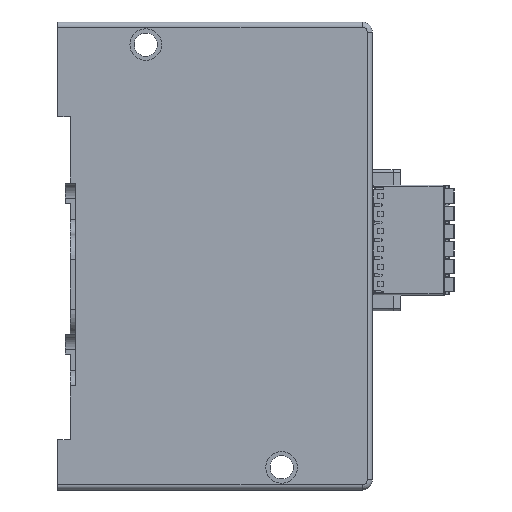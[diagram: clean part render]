
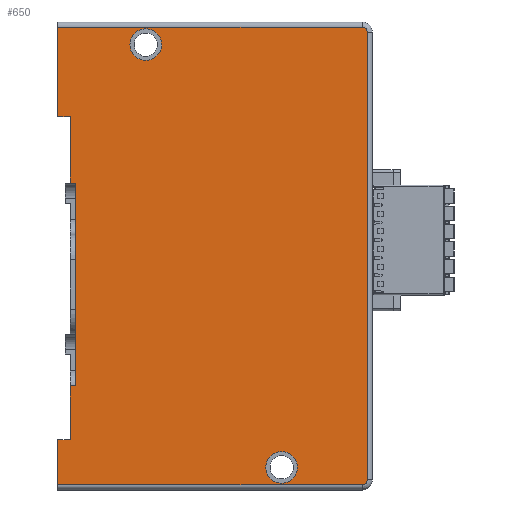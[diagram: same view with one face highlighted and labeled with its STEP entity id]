
A CAD part, left-side view. The second image highlights one B-rep face of the part: STEP entity #650.
In plain terms, the highlighted planar face has unit normal (-1, 0, 0).
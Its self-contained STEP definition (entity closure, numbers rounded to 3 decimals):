
#650=ADVANCED_FACE('',(#7004,#7005,#7006),#7003,.T.);
#7003=PLANE('',#13170);
#7004=FACE_OUTER_BOUND('',#13171,.T.);
#7005=FACE_BOUND('',#13172,.T.);
#7006=FACE_BOUND('',#13173,.T.);
#13167=CARTESIAN_POINT('',(0.,-73.25,-38.9));
#13168=DIRECTION('',(-1.,0.,0.));
#13169=DIRECTION('',(0.,0.,1.));
#13170=AXIS2_PLACEMENT_3D('',#13167,#13168,#13169);
#13171=EDGE_LOOP('',(#17980,#17981,#17982,#17983,#17984,#17985,#17986,#17987,#17988,#17989,#17990,#17991,#17992,#17993));
#13172=EDGE_LOOP('',(#17994,#17995));
#13173=EDGE_LOOP('',(#17996,#17997));
#17980=ORIENTED_EDGE('',*,*,#21207,.F.);
#17981=ORIENTED_EDGE('',*,*,#21129,.F.);
#17982=ORIENTED_EDGE('',*,*,#21131,.F.);
#17983=ORIENTED_EDGE('',*,*,#21084,.T.);
#17984=ORIENTED_EDGE('',*,*,#21221,.F.);
#17985=ORIENTED_EDGE('',*,*,#21222,.F.);
#17986=ORIENTED_EDGE('',*,*,#21226,.F.);
#17987=ORIENTED_EDGE('',*,*,#21232,.T.);
#17988=ORIENTED_EDGE('',*,*,#21233,.T.);
#17989=ORIENTED_EDGE('',*,*,#21234,.T.);
#17990=ORIENTED_EDGE('',*,*,#21235,.T.);
#17991=ORIENTED_EDGE('',*,*,#21236,.T.);
#17992=ORIENTED_EDGE('',*,*,#21201,.F.);
#17993=ORIENTED_EDGE('',*,*,#21205,.F.);
#17994=ORIENTED_EDGE('',*,*,#21237,.F.);
#17995=ORIENTED_EDGE('',*,*,#21238,.F.);
#17996=ORIENTED_EDGE('',*,*,#21239,.F.);
#17997=ORIENTED_EDGE('',*,*,#21240,.F.);
#21084=EDGE_CURVE('',#32451,#32452,#32453,.T.);
#21129=EDGE_CURVE('',#32748,#32755,#32756,.T.);
#21131=EDGE_CURVE('',#32451,#32748,#32768,.T.);
#21201=EDGE_CURVE('',#33238,#33239,#33240,.T.);
#21205=EDGE_CURVE('',#33264,#33238,#33265,.T.);
#21207=EDGE_CURVE('',#32755,#33264,#33277,.T.);
#21221=EDGE_CURVE('',#33359,#32452,#33366,.T.);
#21222=EDGE_CURVE('',#33372,#33359,#33373,.T.);
#21226=EDGE_CURVE('',#33393,#33372,#33400,.T.);
#21232=EDGE_CURVE('',#33393,#33436,#33437,.T.);
#21233=EDGE_CURVE('',#33436,#33443,#33444,.T.);
#21234=EDGE_CURVE('',#33443,#33450,#33451,.T.);
#21235=EDGE_CURVE('',#33450,#33457,#33458,.T.);
#21236=EDGE_CURVE('',#33457,#33239,#33464,.T.);
#21237=EDGE_CURVE('',#33470,#33471,#33472,.T.);
#21238=EDGE_CURVE('',#33471,#33470,#33478,.T.);
#21239=EDGE_CURVE('',#33484,#33485,#33486,.T.);
#21240=EDGE_CURVE('',#33485,#33484,#33492,.T.);
#32451=VERTEX_POINT('',#42852);
#32452=VERTEX_POINT('',#42853);
#32453=LINE('',#42854,#42855);
#32748=VERTEX_POINT('',#43030);
#32755=VERTEX_POINT('',#43034);
#32756=LINE('',#43035,#43036);
#32768=LINE('',#43041,#43042);
#33238=VERTEX_POINT('',#43309);
#33239=VERTEX_POINT('',#43310);
#33240=LINE('',#43311,#43312);
#33264=VERTEX_POINT('',#43325);
#33265=LINE('',#43326,#43327);
#33277=LINE('',#43332,#43333);
#33359=VERTEX_POINT('',#43379);
#33366=LINE('',#43383,#43384);
#33372=VERTEX_POINT('',#43386);
#33373=LINE('',#43387,#43388);
#33393=VERTEX_POINT('',#43398);
#33400=LINE('',#43403,#43404);
#33436=VERTEX_POINT('',#43422);
#33437=LINE('',#43423,#43424);
#33443=VERTEX_POINT('',#43426);
#33444=CIRCLE('',#43430,1.);
#33450=VERTEX_POINT('',#43431);
#33451=LINE('',#43432,#43433);
#33457=VERTEX_POINT('',#43435);
#33458=CIRCLE('',#43439,1.);
#33464=LINE('',#43440,#43441);
#33470=VERTEX_POINT('',#43443);
#33471=VERTEX_POINT('',#43444);
#33472=CIRCLE('',#43448,3.15);
#33478=CIRCLE('',#43452,3.15);
#33484=VERTEX_POINT('',#43453);
#33485=VERTEX_POINT('',#43454);
#33486=CIRCLE('',#43458,3.15);
#33492=CIRCLE('',#43462,3.15);
#42852=CARTESIAN_POINT('',(0.,-9.1,-10.1));
#42853=CARTESIAN_POINT('',(0.,-8.1,-10.1));
#42854=CARTESIAN_POINT('',(0.,-9.1,-10.1));
#42855=VECTOR('',#42856,1.);
#42856=DIRECTION('',(0.,1.,0.));
#43030=CARTESIAN_POINT('',(0.,-9.1,30.2));
#43034=CARTESIAN_POINT('',(0.,-8.1,30.2));
#43035=CARTESIAN_POINT('',(0.,-9.1,30.2));
#43036=VECTOR('',#43037,1.);
#43037=DIRECTION('',(0.,1.,0.));
#43041=CARTESIAN_POINT('',(0.,-9.1,-10.1));
#43042=VECTOR('',#43043,40.3);
#43043=DIRECTION('',(0.,0.,1.));
#43309=CARTESIAN_POINT('',(0.,-5.6,43.4));
#43310=CARTESIAN_POINT('',(0.,-5.6,61.2));
#43311=CARTESIAN_POINT('',(0.,-5.6,43.4));
#43312=VECTOR('',#43313,17.8);
#43313=DIRECTION('',(0.,0.,1.));
#43325=CARTESIAN_POINT('',(0.,-8.1,43.4));
#43326=CARTESIAN_POINT('',(0.,-8.1,43.4));
#43327=VECTOR('',#43328,2.5);
#43328=DIRECTION('',(0.,1.,0.));
#43332=CARTESIAN_POINT('',(0.,-8.1,30.2));
#43333=VECTOR('',#43334,13.2);
#43334=DIRECTION('',(0.,0.,1.));
#43379=CARTESIAN_POINT('',(0.,-8.1,-20.8));
#43383=CARTESIAN_POINT('',(0.,-8.1,-20.8));
#43384=VECTOR('',#43385,10.7);
#43385=DIRECTION('',(0.,0.,1.));
#43386=CARTESIAN_POINT('',(0.,-5.6,-20.8));
#43387=CARTESIAN_POINT('',(0.,-5.6,-20.8));
#43388=VECTOR('',#43389,2.5);
#43389=DIRECTION('',(0.,-1.,0.));
#43398=CARTESIAN_POINT('',(0.,-5.6,-29.8));
#43403=CARTESIAN_POINT('',(0.,-5.6,-29.8));
#43404=VECTOR('',#43405,9.);
#43405=DIRECTION('',(0.,0.,1.));
#43422=CARTESIAN_POINT('',(0.,-66.1,-29.8));
#43423=CARTESIAN_POINT('',(0.,-5.6,-29.8));
#43424=VECTOR('',#43425,60.5);
#43425=DIRECTION('',(0.,-1.,0.));
#43426=CARTESIAN_POINT('',(0.,-67.1,-28.8));
#43427=CARTESIAN_POINT('',(0.,-66.1,-28.8));
#43428=DIRECTION('',(-1.,0.,0.));
#43429=DIRECTION('',(0.,0.,-1.));
#43430=AXIS2_PLACEMENT_3D('',#43427,#43428,#43429);
#43431=CARTESIAN_POINT('',(0.,-67.1,60.2));
#43432=CARTESIAN_POINT('',(0.,-67.1,-28.8));
#43433=VECTOR('',#43434,89.);
#43434=DIRECTION('',(0.,0.,1.));
#43435=CARTESIAN_POINT('',(0.,-66.1,61.2));
#43436=CARTESIAN_POINT('',(0.,-66.1,60.2));
#43437=DIRECTION('',(-1.,0.,0.));
#43438=DIRECTION('',(0.,0.,-1.));
#43439=AXIS2_PLACEMENT_3D('',#43436,#43437,#43438);
#43440=CARTESIAN_POINT('',(0.,-66.1,61.2));
#43441=VECTOR('',#43442,60.5);
#43442=DIRECTION('',(0.,1.,0.));
#43443=CARTESIAN_POINT('',(0.,-50.1,-23.15));
#43444=CARTESIAN_POINT('',(0.,-50.1,-29.45));
#43445=CARTESIAN_POINT('',(0.,-50.1,-26.3));
#43446=DIRECTION('',(-1.,0.,0.));
#43447=DIRECTION('',(0.,0.,-1.));
#43448=AXIS2_PLACEMENT_3D('',#43445,#43446,#43447);
#43449=CARTESIAN_POINT('',(0.,-50.1,-26.3));
#43450=DIRECTION('',(-1.,0.,0.));
#43451=DIRECTION('',(0.,0.,-1.));
#43452=AXIS2_PLACEMENT_3D('',#43449,#43450,#43451);
#43453=CARTESIAN_POINT('',(0.,-23.1,60.85));
#43454=CARTESIAN_POINT('',(0.,-23.1,54.55));
#43455=CARTESIAN_POINT('',(0.,-23.1,57.7));
#43456=DIRECTION('',(-1.,0.,0.));
#43457=DIRECTION('',(0.,0.,-1.));
#43458=AXIS2_PLACEMENT_3D('',#43455,#43456,#43457);
#43459=CARTESIAN_POINT('',(0.,-23.1,57.7));
#43460=DIRECTION('',(-1.,0.,0.));
#43461=DIRECTION('',(0.,0.,-1.));
#43462=AXIS2_PLACEMENT_3D('',#43459,#43460,#43461);
